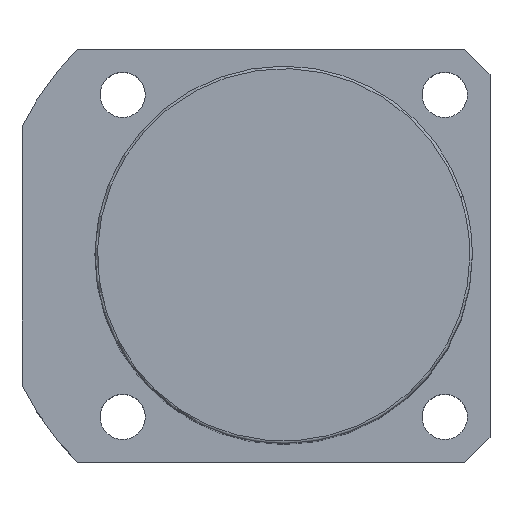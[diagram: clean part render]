
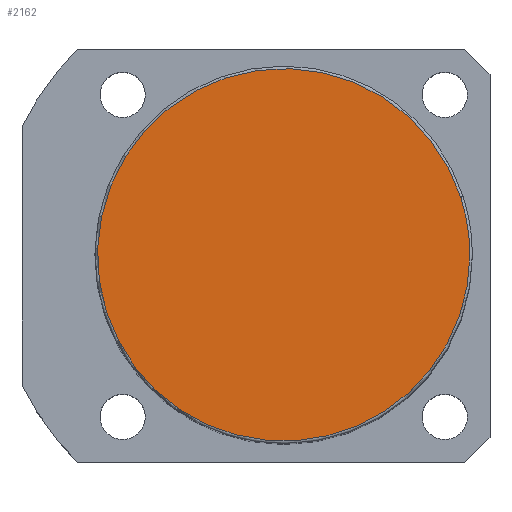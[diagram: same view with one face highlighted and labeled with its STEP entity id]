
A CAD part, top view. The second image highlights one B-rep face of the part: STEP entity #2162.
In plain terms, the highlighted planar face has unit normal (0, 0, 1).
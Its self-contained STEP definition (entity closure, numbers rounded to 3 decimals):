
#2095=CARTESIAN_POINT('',(35.189,11.434,133.0));
#2096=VERTEX_POINT('',#2095);
#2114=CARTESIAN_POINT('',(-35.189,-11.434,133.0));
#2115=VERTEX_POINT('',#2114);
#2123=CARTESIAN_POINT('',(0.0,0.0,133.0));
#2124=DIRECTION('',(0.0,0.0,1.0));
#2125=DIRECTION('',(1.0,0.0,0.0));
#2126=AXIS2_PLACEMENT_3D('',#2123,#2124,#2125);
#2127=CIRCLE('',#2126,37.0);
#2128=EDGE_CURVE('no 1993',#2096,#2115,#2127,.T.);
#2138=CARTESIAN_POINT('',(37.0,0.0,133.0));
#2139=VERTEX_POINT('',#2138);
#2140=CARTESIAN_POINT('',(0.0,0.0,133.0));
#2141=DIRECTION('',(0.0,0.0,1.0));
#2142=DIRECTION('',(1.0,0.0,0.0));
#2143=AXIS2_PLACEMENT_3D('',#2140,#2141,#2142);
#2144=CIRCLE('',#2143,37.0);
#2145=EDGE_CURVE('no 2002',#2139,#2096,#2144,.T.);
#2146=ORIENTED_EDGE('',*,*,#2145,.T.);
#2147=ORIENTED_EDGE('',*,*,#2128,.T.);
#2148=CARTESIAN_POINT('',(0.0,0.0,133.0));
#2149=DIRECTION('',(0.0,0.0,1.0));
#2150=DIRECTION('',(1.0,0.0,0.0));
#2151=AXIS2_PLACEMENT_3D('',#2148,#2149,#2150);
#2152=CIRCLE('',#2151,37.0);
#2153=EDGE_CURVE('no 2008',#2115,#2139,#2152,.T.);
#2154=ORIENTED_EDGE('',*,*,#2153,.T.);
#2155=EDGE_LOOP('',(#2146,#2147,#2154));
#2156=FACE_OUTER_BOUND('',#2155,.T.);
#2157=CARTESIAN_POINT('',(0.0,0.0,133.0));
#2158=DIRECTION('',(0.0,0.0,1.0));
#2159=DIRECTION('',(1.0,0.0,0.0));
#2160=AXIS2_PLACEMENT_3D('',#2157,#2158,#2159);
#2161=PLANE('',#2160);
#2162=ADVANCED_FACE('no 1995',(#2156),#2161,.T.);
